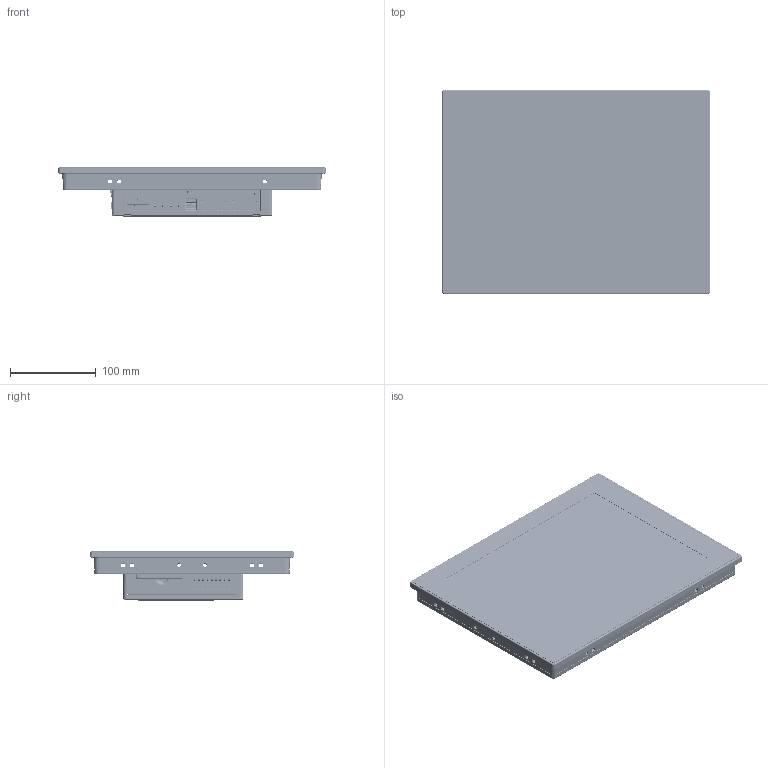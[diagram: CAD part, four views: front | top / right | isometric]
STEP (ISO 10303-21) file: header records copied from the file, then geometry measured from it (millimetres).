
FILE_DESCRIPTION((''),'2;1');
FILE_NAME('CU_TPC-1251T_TEST1','2016-02-17T',('jbuhisan'),(''),'PRO/ENGINEER BY PARAMETRIC TECHNOLOGY CORPORATION, 2015280','PRO/ENGINEER BY PARAMETRIC TECHNOLOGY CORPORATION, 2015280','');
FILE_SCHEMA(('CONFIG_CONTROL_DESIGN'));
Products named in the file (1): CU_TPC-1251T_TEST1
Bounding box: 311.8 x 238 x 57.3 mm (x, y, z)
Volume: 1006779.6 mm3; surface area: 746739.6 mm2
Topology: 6 solids, 13 shells, 8478 faces, 23652 edges, 15442 vertices
Faces by surface type: plane 4905, cylinder 2582, extrusion 369, bspline 206, torus 199, cone 185, revolution 18, sphere 14
Entity records: 398428 total; most frequent: CARTESIAN_POINT 180694, ORIENTED_EDGE 47296, DIRECTION 41949, EDGE_CURVE 23648, VECTOR 16213, LINE 15844, VERTEX_POINT 15442, AXIS2_PLACEMENT_3D 12859
